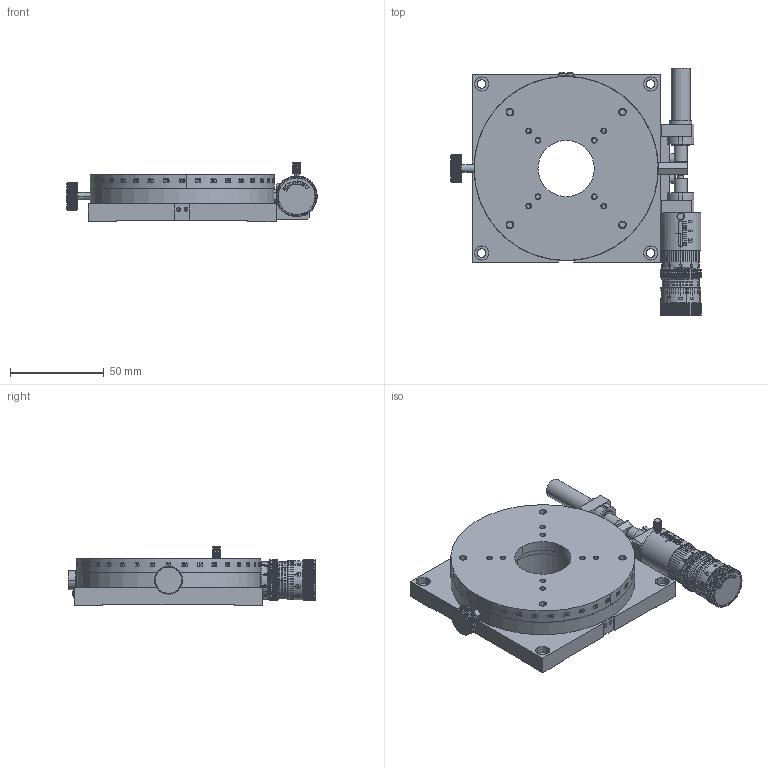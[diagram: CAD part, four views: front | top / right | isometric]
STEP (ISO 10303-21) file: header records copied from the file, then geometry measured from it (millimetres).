
FILE_DESCRIPTION( (''), '2;1');
FILE_NAME ('RM10A-C3-R.stp','2021-06-01T08:59:52',(''),(''),'spGate 15.6.6','','');
FILE_SCHEMA (('AUTOMOTIVE_DESIGN'));
Length unit declared in the file: millimetre
Products named in the file (3): Assembly; RM10A-C3-R-prt0; RM10A-C3-R-prt1
Assembly tree (2 placements, depth 2):
  Assembly
    RM10A-C3-R-prt0
    RM10A-C3-R-prt1
Bounding box: 133.5 x 132 x 31.5 mm (x, y, z)
Volume: 130153.8 mm3; surface area: 69140.5 mm2
Topology: 1 solids, 2 shells, 4782 faces, 13448 edges, 8928 vertices
Faces by surface type: plane 3864, cylinder 632, bspline 278, sphere 8
Entity records: 265071 total; most frequent: CARTESIAN_POINT 40941, ORIENTED_EDGE 27420, DIRECTION 20994, COLOUR_RGB 18804, PRESENTATION_STYLE_ASSIGNMENT 18804, STYLED_ITEM 18804, EDGE_CURVE 14020, DRAUGHTING_PRE_DEFINED_CURVE_FONT 14020
